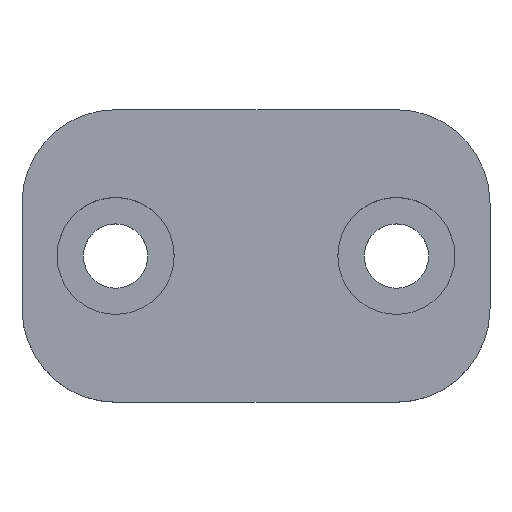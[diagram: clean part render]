
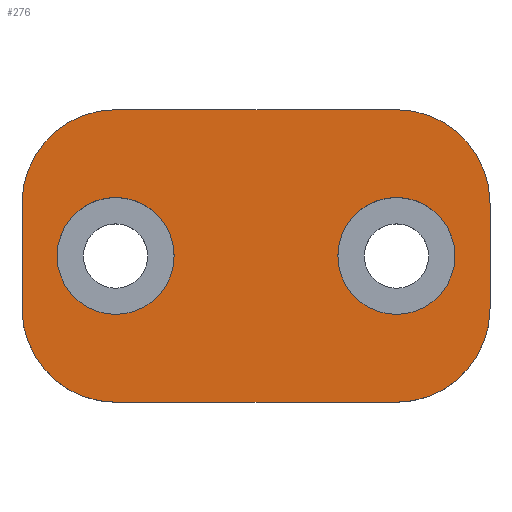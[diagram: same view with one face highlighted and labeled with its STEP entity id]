
A CAD part, top view. The second image highlights one B-rep face of the part: STEP entity #276.
In plain terms, the highlighted planar face has unit normal (0, 0, 1).
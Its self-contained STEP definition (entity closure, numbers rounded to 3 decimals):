
#3 = VERTEX_POINT ( 'NONE', #778 ) ;
#13 = EDGE_CURVE ( 'NONE', #689, #282, #595, .T. ) ;
#29 = DIRECTION ( 'NONE',  ( 1., 0., 0. ) ) ;
#41 = ORIENTED_EDGE ( 'NONE', *, *, #469, .F. ) ;
#46 = ORIENTED_EDGE ( 'NONE', *, *, #589, .T. ) ;
#47 = EDGE_CURVE ( 'NONE', #841, #725, #298, .T. ) ;
#50 = CIRCLE ( 'NONE', #773, 8. ) ;
#54 = DIRECTION ( 'NONE',  ( 1., 0., 0. ) ) ;
#74 = CARTESIAN_POINT ( 'NONE',  ( 12., 12.5, 8.1 ) ) ;
#75 = ORIENTED_EDGE ( 'NONE', *, *, #834, .T. ) ;
#80 = VECTOR ( 'NONE', #423, 1000. ) ;
#95 = VERTEX_POINT ( 'NONE', #74 ) ;
#97 = CARTESIAN_POINT ( 'NONE',  ( 12., 4.5, 8.1 ) ) ;
#105 = EDGE_CURVE ( 'NONE', #803, #290, #604, .T. ) ;
#107 = CARTESIAN_POINT ( 'NONE',  ( -12., 12.5, 8.1 ) ) ;
#109 = ORIENTED_EDGE ( 'NONE', *, *, #466, .T. ) ;
#112 = CARTESIAN_POINT ( 'NONE',  ( -20., 4.5, 8.1 ) ) ;
#117 = CARTESIAN_POINT ( 'NONE',  ( 12., 0., 8.1 ) ) ;
#122 = DIRECTION ( 'NONE',  ( 1., 0., 0. ) ) ;
#128 = CARTESIAN_POINT ( 'NONE',  ( 12., -12.5, 8.1 ) ) ;
#142 = AXIS2_PLACEMENT_3D ( 'NONE', #206, #666, #273 ) ;
#143 = DIRECTION ( 'NONE',  ( 1., 0., 0. ) ) ;
#144 = EDGE_LOOP ( 'NONE', ( #339, #41 ) ) ;
#157 = DIRECTION ( 'NONE',  ( 0., 0., 1. ) ) ;
#166 = CARTESIAN_POINT ( 'NONE',  ( 20., 4.5, 8.1 ) ) ;
#180 = CARTESIAN_POINT ( 'NONE',  ( 7., 0., 8.1 ) ) ;
#187 = DIRECTION ( 'NONE',  ( 0., 0., 1. ) ) ;
#196 = EDGE_CURVE ( 'NONE', #389, #803, #403, .T. ) ;
#206 = CARTESIAN_POINT ( 'NONE',  ( -12., 4.5, 8.1 ) ) ;
#220 = CARTESIAN_POINT ( 'NONE',  ( -12., 0., 8.1 ) ) ;
#261 = EDGE_CURVE ( 'NONE', #420, #521, #349, .T. ) ;
#267 = DIRECTION ( 'NONE',  ( 0., 1., 0. ) ) ;
#273 = DIRECTION ( 'NONE',  ( 1., 0., 0. ) ) ;
#276 = ADVANCED_FACE ( 'NONE', ( #493, #518, #380 ), #292, .T. ) ;
#278 = AXIS2_PLACEMENT_3D ( 'NONE', #687, #366, #756 ) ;
#282 = VERTEX_POINT ( 'NONE', #166 ) ;
#287 = DIRECTION ( 'NONE',  ( 0., 0., 1. ) ) ;
#290 = VERTEX_POINT ( 'NONE', #362 ) ;
#292 = PLANE ( 'NONE',  #422 ) ;
#298 = CIRCLE ( 'NONE', #716, 5. ) ;
#310 = CARTESIAN_POINT ( 'NONE',  ( 17., 0., 8.1 ) ) ;
#316 = DIRECTION ( 'NONE',  ( 0., 0., 1. ) ) ;
#317 = CIRCLE ( 'NONE', #555, 8. ) ;
#321 = DIRECTION ( 'NONE',  ( 1., 0., 0. ) ) ;
#339 = ORIENTED_EDGE ( 'NONE', *, *, #47, .F. ) ;
#341 = DIRECTION ( 'NONE',  ( 0., -1., 0. ) ) ;
#346 = CIRCLE ( 'NONE', #278, 8. ) ;
#349 = CIRCLE ( 'NONE', #609, 5. ) ;
#362 = CARTESIAN_POINT ( 'NONE',  ( -20., -4.5, 8.1 ) ) ;
#365 = ORIENTED_EDGE ( 'NONE', *, *, #686, .F. ) ;
#366 = DIRECTION ( 'NONE',  ( 0., 0., 1. ) ) ;
#373 = ORIENTED_EDGE ( 'NONE', *, *, #13, .T. ) ;
#377 = ORIENTED_EDGE ( 'NONE', *, *, #105, .T. ) ;
#379 = CIRCLE ( 'NONE', #384, 5. ) ;
#380 = FACE_OUTER_BOUND ( 'NONE', #798, .T. ) ;
#384 = AXIS2_PLACEMENT_3D ( 'NONE', #220, #287, #29 ) ;
#387 = VECTOR ( 'NONE', #321, 1000. ) ;
#389 = VERTEX_POINT ( 'NONE', #107 ) ;
#397 = DIRECTION ( 'NONE',  ( 0., 0., 1. ) ) ;
#403 = CIRCLE ( 'NONE', #142, 8. ) ;
#420 = VERTEX_POINT ( 'NONE', #694 ) ;
#422 = AXIS2_PLACEMENT_3D ( 'NONE', #97, #157, #813 ) ;
#423 = DIRECTION ( 'NONE',  ( -1., 0., 0. ) ) ;
#444 = EDGE_CURVE ( 'NONE', #290, #474, #50, .T. ) ;
#466 = EDGE_CURVE ( 'NONE', #474, #3, #581, .T. ) ;
#467 = CARTESIAN_POINT ( 'NONE',  ( -20., -4.5, 8.1 ) ) ;
#469 = EDGE_CURVE ( 'NONE', #725, #841, #644, .T. ) ;
#471 = LINE ( 'NONE', #484, #80 ) ;
#474 = VERTEX_POINT ( 'NONE', #706 ) ;
#482 = CARTESIAN_POINT ( 'NONE',  ( 20., -4.5, 8.1 ) ) ;
#484 = CARTESIAN_POINT ( 'NONE',  ( 12., 12.5, 8.1 ) ) ;
#486 = VECTOR ( 'NONE', #341, 1000. ) ;
#493 = FACE_BOUND ( 'NONE', #144, .T. ) ;
#518 = FACE_BOUND ( 'NONE', #735, .T. ) ;
#521 = VERTEX_POINT ( 'NONE', #782 ) ;
#526 = ORIENTED_EDGE ( 'NONE', *, *, #542, .T. ) ;
#542 = EDGE_CURVE ( 'NONE', #3, #689, #317, .T. ) ;
#552 = DIRECTION ( 'NONE',  ( 0., 0., 1. ) ) ;
#555 = AXIS2_PLACEMENT_3D ( 'NONE', #579, #316, #122 ) ;
#579 = CARTESIAN_POINT ( 'NONE',  ( 12., -4.5, 8.1 ) ) ;
#581 = LINE ( 'NONE', #128, #387 ) ;
#585 = DIRECTION ( 'NONE',  ( -1., 0., 0. ) ) ;
#589 = EDGE_CURVE ( 'NONE', #95, #389, #471, .T. ) ;
#595 = LINE ( 'NONE', #660, #625 ) ;
#604 = LINE ( 'NONE', #467, #486 ) ;
#609 = AXIS2_PLACEMENT_3D ( 'NONE', #810, #552, #801 ) ;
#625 = VECTOR ( 'NONE', #267, 1000. ) ;
#634 = ORIENTED_EDGE ( 'NONE', *, *, #261, .F. ) ;
#644 = CIRCLE ( 'NONE', #685, 5. ) ;
#651 = DIRECTION ( 'NONE',  ( 0., 0., 1. ) ) ;
#660 = CARTESIAN_POINT ( 'NONE',  ( 20., -4.5, 8.1 ) ) ;
#666 = DIRECTION ( 'NONE',  ( 0., 0., 1. ) ) ;
#673 = CARTESIAN_POINT ( 'NONE',  ( 12., 0., 8.1 ) ) ;
#678 = ORIENTED_EDGE ( 'NONE', *, *, #444, .T. ) ;
#685 = AXIS2_PLACEMENT_3D ( 'NONE', #117, #187, #54 ) ;
#686 = EDGE_CURVE ( 'NONE', #521, #420, #379, .T. ) ;
#687 = CARTESIAN_POINT ( 'NONE',  ( 12., 4.5, 8.1 ) ) ;
#689 = VERTEX_POINT ( 'NONE', #482 ) ;
#694 = CARTESIAN_POINT ( 'NONE',  ( -7., 0., 8.1 ) ) ;
#706 = CARTESIAN_POINT ( 'NONE',  ( -12., -12.5, 8.1 ) ) ;
#709 = CARTESIAN_POINT ( 'NONE',  ( -12., -4.5, 8.1 ) ) ;
#716 = AXIS2_PLACEMENT_3D ( 'NONE', #673, #397, #143 ) ;
#725 = VERTEX_POINT ( 'NONE', #180 ) ;
#735 = EDGE_LOOP ( 'NONE', ( #634, #365 ) ) ;
#756 = DIRECTION ( 'NONE',  ( 1., 0., 0. ) ) ;
#773 = AXIS2_PLACEMENT_3D ( 'NONE', #709, #651, #585 ) ;
#778 = CARTESIAN_POINT ( 'NONE',  ( 12., -12.5, 8.1 ) ) ;
#782 = CARTESIAN_POINT ( 'NONE',  ( -17., 0., 8.1 ) ) ;
#798 = EDGE_LOOP ( 'NONE', ( #75, #46, #817, #377, #678, #109, #526, #373 ) ) ;
#801 = DIRECTION ( 'NONE',  ( 1., 0., 0. ) ) ;
#803 = VERTEX_POINT ( 'NONE', #112 ) ;
#810 = CARTESIAN_POINT ( 'NONE',  ( -12., 0., 8.1 ) ) ;
#813 = DIRECTION ( 'NONE',  ( 1., 0., 0. ) ) ;
#817 = ORIENTED_EDGE ( 'NONE', *, *, #196, .T. ) ;
#834 = EDGE_CURVE ( 'NONE', #282, #95, #346, .T. ) ;
#841 = VERTEX_POINT ( 'NONE', #310 ) ;
